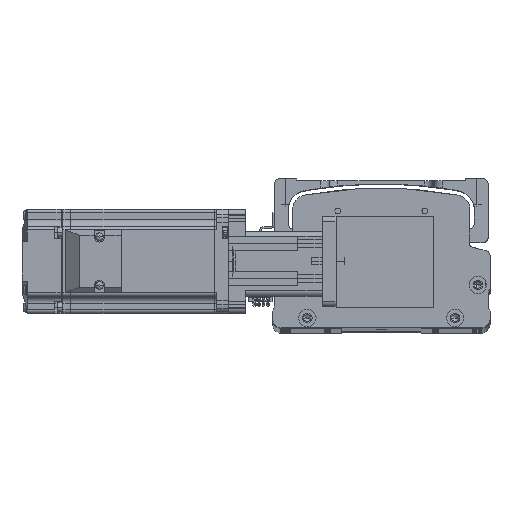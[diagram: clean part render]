
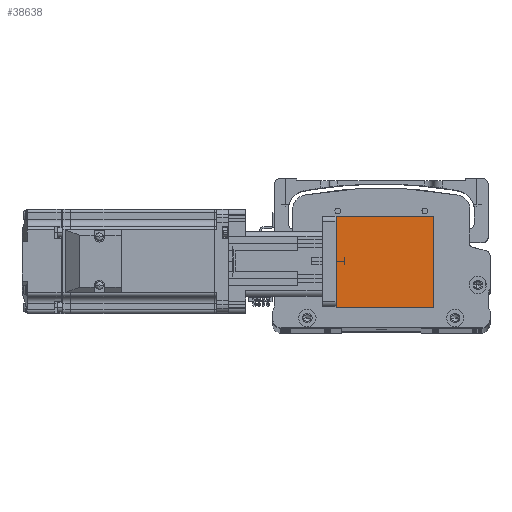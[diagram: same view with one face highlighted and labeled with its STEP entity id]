
A CAD part, top view. The second image highlights one B-rep face of the part: STEP entity #38638.
In plain terms, the highlighted planar face has unit normal (0, 0, 1) as drawn and (-1, 0, 0) by its records, which use the part's own axes.
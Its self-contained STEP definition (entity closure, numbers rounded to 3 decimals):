
#578 = DIRECTION ( 'NONE',  ( 0., 0., -1. ) ) ;
#605 = EDGE_CURVE ( 'NONE', #9151, #37238, #21884, .T. ) ;
#919 = EDGE_CURVE ( 'NONE', #4995, #50875, #51003, .T. ) ;
#4995 = VERTEX_POINT ( 'NONE', #58713 ) ;
#8156 = CARTESIAN_POINT ( 'NONE',  ( -31.5, -26., 0. ) ) ;
#9151 = VERTEX_POINT ( 'NONE', #47780 ) ;
#11511 = VECTOR ( 'NONE', #33880, 1000. ) ;
#13108 = LINE ( 'NONE', #28838, #11511 ) ;
#15058 = EDGE_LOOP ( 'NONE', ( #29286, #30440, #57789, #65353 ) ) ;
#17875 = CARTESIAN_POINT ( 'NONE',  ( -31.5, -26., 56. ) ) ;
#21884 = LINE ( 'NONE', #57744, #59005 ) ;
#27462 = DIRECTION ( 'NONE',  ( 0., 0., -1. ) ) ;
#28838 = CARTESIAN_POINT ( 'NONE',  ( -31.5, -26., 0. ) ) ;
#29070 = DIRECTION ( 'NONE',  ( 0., 0., -1. ) ) ;
#29286 = ORIENTED_EDGE ( 'NONE', *, *, #38607, .T. ) ;
#30440 = ORIENTED_EDGE ( 'NONE', *, *, #919, .F. ) ;
#33481 = AXIS2_PLACEMENT_3D ( 'NONE', #49145, #59334, #29070 ) ;
#33880 = DIRECTION ( 'NONE',  ( 0., -1., 0. ) ) ;
#34906 = EDGE_CURVE ( 'NONE', #9151, #4995, #53971, .T. ) ;
#36679 = FACE_OUTER_BOUND ( 'NONE', #15058, .T. ) ;
#37238 = VERTEX_POINT ( 'NONE', #52869 ) ;
#37536 = VECTOR ( 'NONE', #578, 1000. ) ;
#38607 = EDGE_CURVE ( 'NONE', #37238, #50875, #13108, .T. ) ;
#38638 = ADVANCED_FACE ( 'NONE', ( #36679 ), #64235, .F. ) ;
#38929 = VECTOR ( 'NONE', #48068, 1000. ) ;
#47780 = CARTESIAN_POINT ( 'NONE',  ( -31.5, 26., 56. ) ) ;
#48068 = DIRECTION ( 'NONE',  ( 0., -1., 0. ) ) ;
#49145 = CARTESIAN_POINT ( 'NONE',  ( -31.5, -26., 56. ) ) ;
#50759 = CARTESIAN_POINT ( 'NONE',  ( -31.5, -26., 56. ) ) ;
#50875 = VERTEX_POINT ( 'NONE', #8156 ) ;
#51003 = LINE ( 'NONE', #50759, #37536 ) ;
#52869 = CARTESIAN_POINT ( 'NONE',  ( -31.5, 26., 0. ) ) ;
#53971 = LINE ( 'NONE', #17875, #38929 ) ;
#57744 = CARTESIAN_POINT ( 'NONE',  ( -31.5, 26., 56. ) ) ;
#57789 = ORIENTED_EDGE ( 'NONE', *, *, #34906, .F. ) ;
#58713 = CARTESIAN_POINT ( 'NONE',  ( -31.5, -26., 56. ) ) ;
#59005 = VECTOR ( 'NONE', #27462, 1000. ) ;
#59334 = DIRECTION ( 'NONE',  ( 1., 0., 0. ) ) ;
#64235 = PLANE ( 'NONE',  #33481 ) ;
#65353 = ORIENTED_EDGE ( 'NONE', *, *, #605, .T. ) ;
